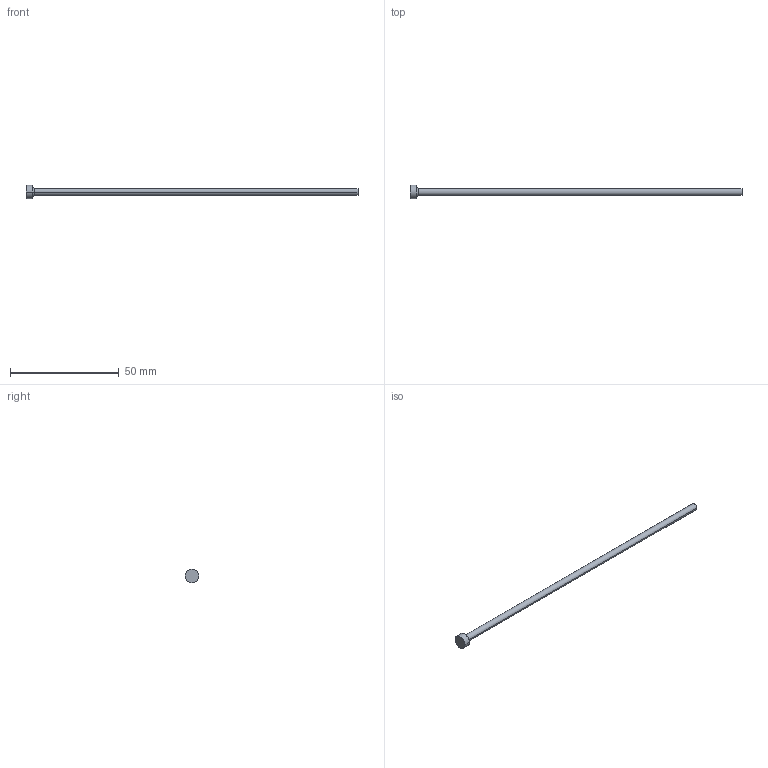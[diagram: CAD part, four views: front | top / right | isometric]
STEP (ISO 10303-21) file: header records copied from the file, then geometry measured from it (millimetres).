
FILE_DESCRIPTION (( 'STEP AP214' ), '1' );
FILE_NAME ('P9-6.STEP', '2020-03-11T17:30:09', ( '' ), ( '' ), 'SwSTEP 2.0', 'SolidWorks 2018', '' );
FILE_SCHEMA (( 'AUTOMOTIVE_DESIGN' ));
Length unit declared in the file: inch
Products named in the file (1): P9-6
Bounding box: 152.4 x 6.35 x 6.35 mm (x, y, z)
Volume: 1277.5 mm3; surface area: 1606.2 mm2
Topology: 1 solids, 1 shells, 13 faces, 24 edges, 14 vertices
Faces by surface type: cone 4, cylinder 4, plane 3, torus 2
Entity records: 366 total; most frequent: DIRECTION 68, CARTESIAN_POINT 52, ORIENTED_EDGE 48, AXIS2_PLACEMENT_3D 30, EDGE_CURVE 24, CIRCLE 16, VERTEX_POINT 14, EDGE_LOOP 14
